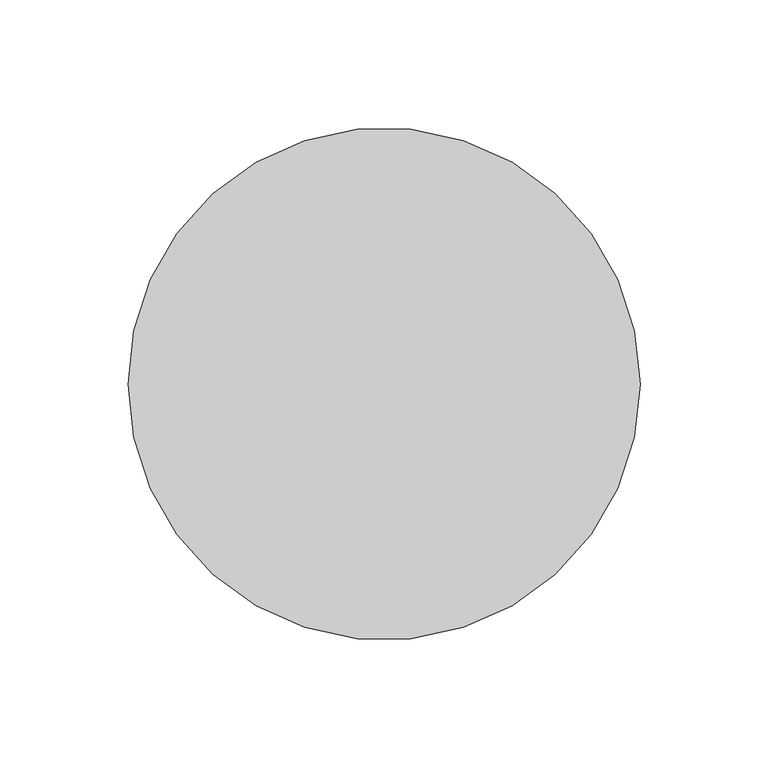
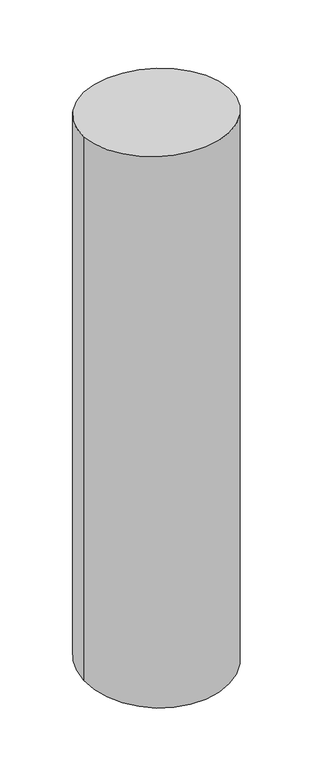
"""IFC4 building model written with IfcOpenShell, lengths in millimetres: member geometry, 矩形竖梃 : 圆瓦."""

from ifc_helpers import new_model, si_unit, frame, origin, origin_with_axes, place, context, project, spatial, ellipse_curve, source, transform, mapped, element, save
from ifc_brep_helpers import plane_surface, cylinder_surface, advanced_brep


def member_d07f44d0(model_context):
    return source(origin(), model_context, "Body", "AdvancedBrep", [
        advanced_brep(
        [(-100.0, 0.0, 0.0), (100.0, 0.0, 0.0), (100.0, 0.0, -790.1124317), (-100.0, 0.0, -790.1124317)],
        [
            (0, 1, ellipse_curve(frame((0.0, 0.0, 0.0), z_axis=(0.0, -0.06767279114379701, -0.9977075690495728), x_axis=(0.0, -0.9977075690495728, 0.06767279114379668)), 100.2297698, 100.0)),
            (1, 2),
            (2, 3, ellipse_curve(frame((0.0, 0.0, -790.1124317), z_axis=(0.0, -0.06281655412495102, 0.9980250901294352), x_axis=(0.0, 0.9980250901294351, 0.06281655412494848)), 100.1978818, 100.0)),
            (3, 0),
            (1, 0, ellipse_curve(frame((0.0, 0.0, 0.0), z_axis=(0.0, -0.06767279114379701, -0.9977075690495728), x_axis=(0.0, -0.9977075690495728, 0.06767279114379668)), 100.2297698, 100.0)),
            (3, 2, ellipse_curve(frame((0.0, 0.0, -790.1124317), z_axis=(0.0, -0.06281655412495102, 0.9980250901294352), x_axis=(0.0, 0.9980250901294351, 0.06281655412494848)), 100.1978818, 100.0)),
        ],
        [
            cylinder_surface(origin_with_axes(), 100.0),
            plane_surface(frame((-304.8, 0.0, 0.0), z_axis=(0.0, 0.06767279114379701, 0.9977075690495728), x_axis=(0.0, 0.9977075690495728, -0.06767279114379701))),
            plane_surface(frame((-304.8, 0.0, -790.1124317), z_axis=(0.0, 0.06281655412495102, -0.9980250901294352), x_axis=(0.0, 0.9980250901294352, 0.06281655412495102))),
        ],
        [
            (0, [[1, 2, 3, 4]]),
            (0, [[5, -4, 6, -2]]),
            (1, [[-1, -5]]),
            (2, [[-6, -3]]),
        ],
    ),
    ])


if __name__ == "__main__":
    model = new_model("IFC4")
    model_context = context("Model", 3, world=origin())
    ifc_project = project(units=[si_unit("LENGTHUNIT", "METRE", prefix="MILLI")], contexts=[model_context])
    site = spatial("IfcSite", under=ifc_project)
    building = spatial("IfcBuilding", under=site)
    placement = place(None, origin())
    member_shape = member_d07f44d0(model_context)
    element("IfcMember", 1, ObjectType="矩形竖梃 : 圆瓦", at=placement, inside=building, context=model_context, shape_type="MappedRepresentation", body=[
        mapped(member_shape, transform((0.0, 0.0, 0.0), x_axis=(1.0, 0.0, 0.0), y_axis=(0.0, 1.0, 0.0), z_axis=(0.0, 0.0, 1.0))),
    ])
    save(model, "model.ifc")
